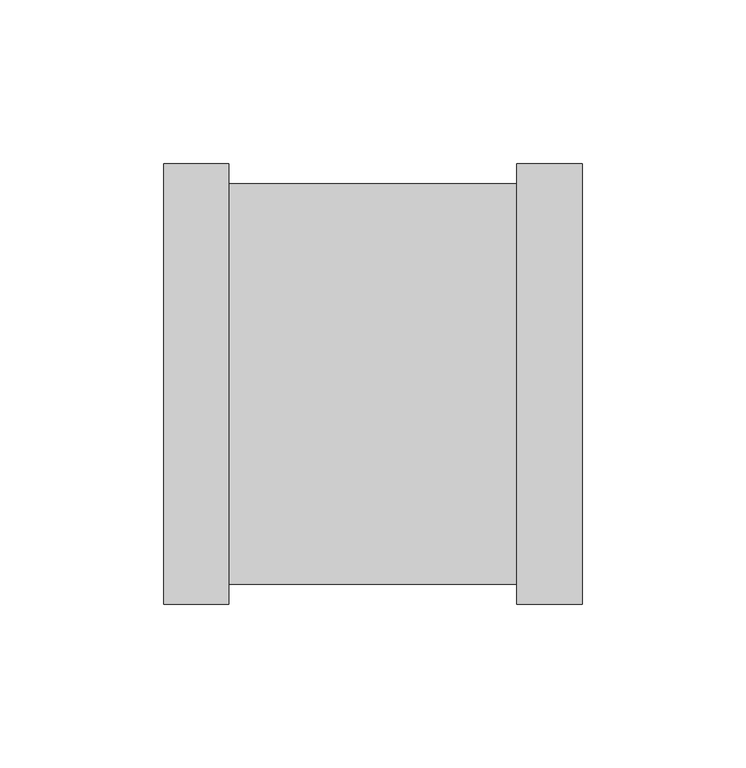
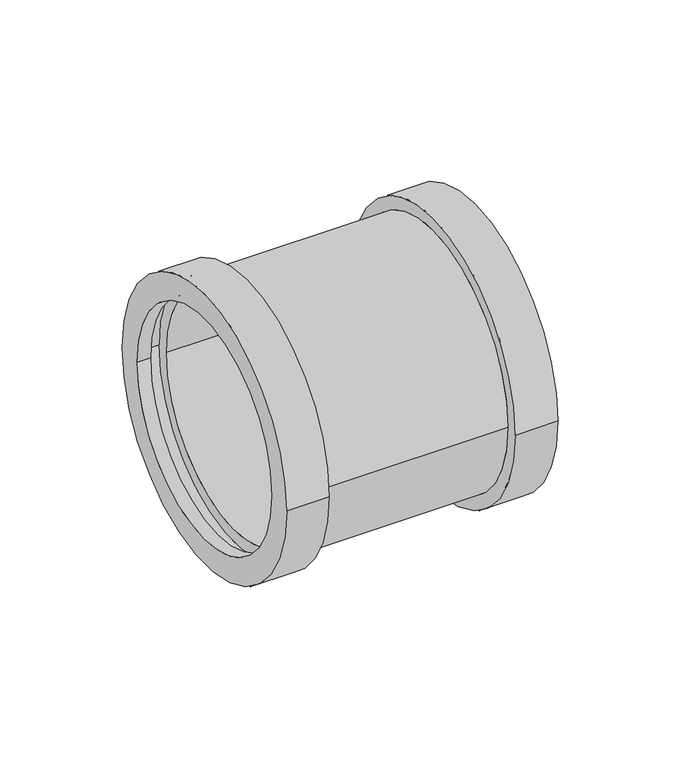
"""IFC4 building model written with IfcOpenShell, lengths in millimetres: pipe fitting geometry, AWADUKT PP Union DSM : Blue No PID."""

from ifc_helpers import new_model, si_unit, frame, origin, place, context, project, spatial, polyline, circle_curve, source, transform, mapped, element, save
from ifc_brep_helpers import plane_surface, cylinder_surface, revolved_surface, advanced_brep


def pipe_fitting_0ebad727(model_context):
    return source(origin(), model_context, "Body", "AdvancedBrep", [
        advanced_brep(
        [(-48.2, -55.0, 0.0), (-48.2, 55.0, 0.0), (0.0, 55.0, 0.0), (0.0, -55.0, 0.0), (-55.8, -61.2, 0.0), (-55.8, 61.2, 0.0), (-48.2, 61.2, 0.0), (-48.2, -61.2, 0.0), (-62.0, -55.0, 0.0), (-62.0, 55.0, 0.0), (-55.8, 55.0, 0.0), (-55.8, -55.0, 0.0), (-42.0, -67.4, 0.0), (-42.0, 67.4, 0.0), (-62.0, 67.4, 0.0), (-62.0, -67.4, 0.0), (46.0, -61.2, 0.0), (46.0, 61.2, 0.0), (-42.0, 61.2, 0.0), (-42.0, -61.2, 0.0), (66.0, -67.4, 0.0), (66.0, 67.4, 0.0), (46.0, 67.4, 0.0), (46.0, -67.4, 0.0), (59.8, -55.0, 0.0), (59.8, 55.0, 0.0), (66.0, 55.0, 0.0), (66.0, -55.0, 0.0), (52.2, -61.2, 0.0), (52.2, 61.2, 0.0), (59.8, 61.2, 0.0), (59.8, -61.2, 0.0), (4.0, -55.0, 0.0), (4.0, 55.0, 0.0), (52.2, 55.0, 0.0), (52.2, -55.0, 0.0), (0.0, -48.8, 0.0), (0.0, 48.8, 0.0), (4.0, 48.8, 0.0), (4.0, -48.8, 0.0)],
        [
            (0, 1, circle_curve(frame((-48.2, 0.0, 0.0), z_axis=(-1.0, 0.0, 0.0), x_axis=(0.0, 1.0, 0.0)), 55.0)),
            (1, 2),
            (2, 3, circle_curve(frame((0.0, 0.0, 0.0), z_axis=(1.0, 0.0, 0.0), x_axis=(0.0, 1.0, 0.0)), 55.0)),
            (3, 0),
            (4, 5, circle_curve(frame((-55.8, 0.0, 0.0), z_axis=(-1.0, 0.0, 0.0), x_axis=(0.0, 1.0, 0.0)), 61.2)),
            (5, 6),
            (6, 7, circle_curve(frame((-48.2, 0.0, 0.0), z_axis=(1.0, 0.0, 0.0), x_axis=(0.0, 1.0, 0.0)), 61.2)),
            (7, 4),
            (8, 9, circle_curve(frame((-62.0, 0.0, 0.0), z_axis=(-1.0, 0.0, 0.0), x_axis=(0.0, 1.0, 0.0)), 55.0)),
            (9, 10),
            (10, 11, circle_curve(frame((-55.8, 0.0, 0.0), z_axis=(1.0, 0.0, 0.0), x_axis=(0.0, 1.0, 0.0)), 55.0)),
            (11, 8),
            (12, 13, circle_curve(frame((-42.0, 0.0, 0.0), z_axis=(-1.0, 0.0, 0.0), x_axis=(0.0, 1.0, 0.0)), 67.4)),
            (13, 14),
            (14, 15, circle_curve(frame((-62.0, 0.0, 0.0), z_axis=(1.0, 0.0, 0.0), x_axis=(0.0, 1.0, 0.0)), 67.4)),
            (15, 12),
            (16, 17, circle_curve(frame((46.0, 0.0, 0.0), z_axis=(-1.0, 0.0, 0.0), x_axis=(0.0, 1.0, 0.0)), 61.2)),
            (17, 18),
            (18, 19, circle_curve(frame((-42.0, 0.0, 0.0), z_axis=(1.0, 0.0, 0.0), x_axis=(0.0, 1.0, 0.0)), 61.2)),
            (19, 16),
            (20, 21, circle_curve(frame((66.0, 0.0, 0.0), z_axis=(-1.0, 0.0, 0.0), x_axis=(0.0, 1.0, 0.0)), 67.4)),
            (21, 22),
            (22, 23, circle_curve(frame((46.0, 0.0, 0.0), z_axis=(1.0, 0.0, 0.0), x_axis=(0.0, 1.0, 0.0)), 67.4)),
            (23, 20),
            (24, 25, circle_curve(frame((59.8, 0.0, 0.0), z_axis=(-1.0, 0.0, 0.0), x_axis=(0.0, 1.0, 0.0)), 55.0)),
            (25, 26),
            (26, 27, circle_curve(frame((66.0, 0.0, 0.0), z_axis=(1.0, 0.0, 0.0), x_axis=(0.0, 1.0, 0.0)), 55.0)),
            (27, 24),
            (28, 29, circle_curve(frame((52.2, 0.0, 0.0), z_axis=(-1.0, 0.0, 0.0), x_axis=(0.0, 1.0, 0.0)), 61.2)),
            (29, 30),
            (30, 31, circle_curve(frame((59.8, 0.0, 0.0), z_axis=(1.0, 0.0, 0.0), x_axis=(0.0, 1.0, 0.0)), 61.2)),
            (31, 28),
            (32, 33, circle_curve(frame((4.0, 0.0, 0.0), z_axis=(-1.0, 0.0, 0.0), x_axis=(0.0, 1.0, 0.0)), 55.0)),
            (33, 34),
            (34, 35, circle_curve(frame((52.2, 0.0, 0.0), z_axis=(1.0, 0.0, 0.0), x_axis=(0.0, 1.0, 0.0)), 55.0)),
            (35, 32),
            (36, 37, circle_curve(frame((0.0, 0.0, 0.0), z_axis=(-1.0, 0.0, 0.0), x_axis=(0.0, 1.0, 0.0)), 48.8)),
            (37, 38),
            (38, 39, circle_curve(frame((4.0, 0.0, 0.0), z_axis=(1.0, 0.0, 0.0), x_axis=(0.0, 1.0, 0.0)), 48.8)),
            (39, 36),
            (1, 0, circle_curve(frame((-48.2, 0.0, 0.0), z_axis=(-1.0, 0.0, 0.0), x_axis=(0.0, -1.0, 0.0)), 55.0)),
            (3, 2, circle_curve(frame((0.0, 0.0, 0.0), z_axis=(1.0, 0.0, 0.0), x_axis=(0.0, -1.0, 0.0)), 55.0)),
            (6, 7, circle_curve(frame((-48.2, 0.0, 0.0), z_axis=(-1.0, 0.0, 0.0), x_axis=(0.0, -1.0, 0.0)), 61.2)),
            (5, 4, circle_curve(frame((-55.8, 0.0, 0.0), z_axis=(-1.0, 0.0, 0.0), x_axis=(0.0, -1.0, 0.0)), 61.2)),
            (10, 11, circle_curve(frame((-55.8, 0.0, 0.0), z_axis=(-1.0, 0.0, 0.0), x_axis=(0.0, -1.0, 0.0)), 55.0)),
            (9, 8, circle_curve(frame((-62.0, 0.0, 0.0), z_axis=(-1.0, 0.0, 0.0), x_axis=(0.0, -1.0, 0.0)), 55.0)),
            (14, 15, circle_curve(frame((-62.0, 0.0, 0.0), z_axis=(-1.0, 0.0, 0.0), x_axis=(0.0, -1.0, 0.0)), 67.4)),
            (13, 12, circle_curve(frame((-42.0, 0.0, 0.0), z_axis=(-1.0, 0.0, 0.0), x_axis=(0.0, -1.0, 0.0)), 67.4)),
            (18, 19, circle_curve(frame((-42.0, 0.0, 0.0), z_axis=(-1.0, 0.0, 0.0), x_axis=(0.0, -1.0, 0.0)), 61.2)),
            (17, 16, circle_curve(frame((46.0, 0.0, 0.0), z_axis=(-1.0, 0.0, 0.0), x_axis=(0.0, -1.0, 0.0)), 61.2)),
            (22, 23, circle_curve(frame((46.0, 0.0, 0.0), z_axis=(-1.0, 0.0, 0.0), x_axis=(0.0, -1.0, 0.0)), 67.4)),
            (21, 20, circle_curve(frame((66.0, 0.0, 0.0), z_axis=(-1.0, 0.0, 0.0), x_axis=(0.0, -1.0, 0.0)), 67.4)),
            (26, 27, circle_curve(frame((66.0, 0.0, 0.0), z_axis=(-1.0, 0.0, 0.0), x_axis=(0.0, -1.0, 0.0)), 55.0)),
            (25, 24, circle_curve(frame((59.8, 0.0, 0.0), z_axis=(-1.0, 0.0, 0.0), x_axis=(0.0, -1.0, 0.0)), 55.0)),
            (30, 31, circle_curve(frame((59.8, 0.0, 0.0), z_axis=(-1.0, 0.0, 0.0), x_axis=(0.0, -1.0, 0.0)), 61.2)),
            (29, 28, circle_curve(frame((52.2, 0.0, 0.0), z_axis=(-1.0, 0.0, 0.0), x_axis=(0.0, -1.0, 0.0)), 61.2)),
            (34, 35, circle_curve(frame((52.2, 0.0, 0.0), z_axis=(-1.0, 0.0, 0.0), x_axis=(0.0, -1.0, 0.0)), 55.0)),
            (33, 32, circle_curve(frame((4.0, 0.0, 0.0), z_axis=(-1.0, 0.0, 0.0), x_axis=(0.0, -1.0, 0.0)), 55.0)),
            (38, 39, circle_curve(frame((4.0, 0.0, 0.0), z_axis=(-1.0, 0.0, 0.0), x_axis=(0.0, -1.0, 0.0)), 48.8)),
            (37, 36, circle_curve(frame((0.0, 0.0, 0.0), z_axis=(-1.0, 0.0, 0.0), x_axis=(0.0, -1.0, 0.0)), 48.8)),
        ],
        [
            revolved_surface(polyline([(0.0, 55.0, 0.0), (-48.2, 55.0, 0.0)]), (2.0, 0.0, 0.0), (1.0, 0.0, 0.0)),
            revolved_surface(polyline([(-48.2, 61.2, 0.0), (-55.8, 61.2, 0.0)]), (2.0, 0.0, 0.0), (1.0, 0.0, 0.0)),
            revolved_surface(polyline([(-55.8, 55.0, 0.0), (-62.0, 55.0, 0.0)]), (2.0, 0.0, 0.0), (1.0, 0.0, 0.0)),
            cylinder_surface(frame((2.0, 0.0, 0.0), z_axis=(1.0, 0.0, 0.0), x_axis=(0.0, 1.0, 0.0)), 67.4),
            cylinder_surface(frame((2.0, 0.0, 0.0), z_axis=(1.0, 0.0, 0.0), x_axis=(0.0, 1.0, 0.0)), 61.2),
            revolved_surface(polyline([(66.0, 55.0, 0.0), (59.8, 55.0, 0.0)]), (2.0, 0.0, 0.0), (1.0, 0.0, 0.0)),
            revolved_surface(polyline([(59.8, 61.2, 0.0), (52.2, 61.2, 0.0)]), (2.0, 0.0, 0.0), (1.0, 0.0, 0.0)),
            revolved_surface(polyline([(52.2, 55.0, 0.0), (4.0, 55.0, 0.0)]), (2.0, 0.0, 0.0), (1.0, 0.0, 0.0)),
            revolved_surface(polyline([(4.0, 48.8, 0.0), (0.0, 48.8, 0.0)]), (2.0, 0.0, 0.0), (1.0, 0.0, 0.0)),
            revolved_surface(polyline([(0.0, -55.0, 0.0), (-48.2, -55.0, 0.0)]), (2.0, 0.0, 0.0), (1.0, 0.0, 0.0)),
            plane_surface(frame((-48.2, 0.0, 0.0), z_axis=(-1.0, 0.0, 0.0), x_axis=(0.0, -1.0, 0.0))),
            revolved_surface(polyline([(-48.2, -61.2, 0.0), (-55.8, -61.2, 0.0)]), (2.0, 0.0, 0.0), (1.0, 0.0, 0.0)),
            plane_surface(frame((-55.8, 0.0, 0.0), z_axis=(1.0, 0.0, 0.0), x_axis=(0.0, -1.0, 0.0))),
            revolved_surface(polyline([(-55.8, -55.0, 0.0), (-62.0, -55.0, 0.0)]), (2.0, 0.0, 0.0), (1.0, 0.0, 0.0)),
            plane_surface(frame((-62.0, 0.0, 0.0), z_axis=(-1.0, 0.0, 0.0), x_axis=(0.0, -1.0, 0.0))),
            cylinder_surface(frame((2.0, 0.0, 0.0), z_axis=(1.0, 0.0, 0.0), x_axis=(0.0, -1.0, 0.0)), 67.4),
            plane_surface(frame((-42.0, 0.0, 0.0), z_axis=(1.0, 0.0, 0.0), x_axis=(0.0, -1.0, 0.0))),
            cylinder_surface(frame((2.0, 0.0, 0.0), z_axis=(1.0, 0.0, 0.0), x_axis=(0.0, -1.0, 0.0)), 61.2),
            plane_surface(frame((46.0, 0.0, 0.0), z_axis=(-1.0, 0.0, 0.0), x_axis=(0.0, -1.0, 0.0))),
            plane_surface(frame((66.0, 0.0, 0.0), z_axis=(1.0, 0.0, 0.0), x_axis=(0.0, -1.0, 0.0))),
            revolved_surface(polyline([(66.0, -55.0, 0.0), (59.8, -55.0, 0.0)]), (2.0, 0.0, 0.0), (1.0, 0.0, 0.0)),
            plane_surface(frame((59.8, 0.0, 0.0), z_axis=(-1.0, 0.0, 0.0), x_axis=(0.0, -1.0, 0.0))),
            revolved_surface(polyline([(59.8, -61.2, 0.0), (52.2, -61.2, 0.0)]), (2.0, 0.0, 0.0), (1.0, 0.0, 0.0)),
            plane_surface(frame((52.2, 0.0, 0.0), z_axis=(1.0, 0.0, 0.0), x_axis=(0.0, -1.0, 0.0))),
            revolved_surface(polyline([(52.2, -55.0, 0.0), (4.0, -55.0, 0.0)]), (2.0, 0.0, 0.0), (1.0, 0.0, 0.0)),
            plane_surface(frame((4.0, 0.0, 0.0), z_axis=(1.0, 0.0, 0.0), x_axis=(0.0, -1.0, 0.0))),
            revolved_surface(polyline([(4.0, -48.8, 0.0), (0.0, -48.8, 0.0)]), (2.0, 0.0, 0.0), (1.0, 0.0, 0.0)),
            plane_surface(frame((0.0, 0.0, 0.0), z_axis=(-1.0, 0.0, 0.0), x_axis=(0.0, -1.0, 0.0))),
        ],
        [
            (0, [[1, 2, 3, 4]]),
            (1, [[5, 6, 7, 8]]),
            (2, [[9, 10, 11, 12]]),
            (3, [[13, 14, 15, 16]]),
            (4, [[17, 18, 19, 20]]),
            (3, [[21, 22, 23, 24]]),
            (5, [[25, 26, 27, 28]]),
            (6, [[29, 30, 31, 32]]),
            (7, [[33, 34, 35, 36]]),
            (8, [[37, 38, 39, 40]]),
            (9, [[41, -4, 42, -2]]),
            (10, [[43, -7], [-41, -1]]),
            (11, [[44, -8, -43, -6]]),
            (12, [[-44, -5], [45, -11]]),
            (13, [[46, -12, -45, -10]]),
            (14, [[47, -15], [-46, -9]]),
            (15, [[48, -16, -47, -14]]),
            (16, [[-48, -13], [49, -19]]),
            (17, [[50, -20, -49, -18]]),
            (18, [[51, -23], [-50, -17]]),
            (15, [[52, -24, -51, -22]]),
            (19, [[-52, -21], [53, -27]]),
            (20, [[54, -28, -53, -26]]),
            (21, [[55, -31], [-54, -25]]),
            (22, [[56, -32, -55, -30]]),
            (23, [[-56, -29], [57, -35]]),
            (24, [[58, -36, -57, -34]]),
            (25, [[-58, -33], [59, -39]]),
            (26, [[60, -40, -59, -38]]),
            (27, [[-42, -3], [-60, -37]]),
        ],
    ),
    ])


if __name__ == "__main__":
    model = new_model("IFC4")
    model_context = context("Model", 3, world=origin())
    ifc_project = project(units=[si_unit("LENGTHUNIT", "METRE", prefix="MILLI")], contexts=[model_context])
    site = spatial("IfcSite", under=ifc_project)
    building = spatial("IfcBuilding", under=site)
    placement = place(None, origin())
    pipe_fitting_shape = pipe_fitting_0ebad727(model_context)
    element("IfcPipeFitting", 1, ObjectType="AWADUKT PP Union DSM : Blue No PID", at=placement, inside=building, context=model_context, shape_type="MappedRepresentation", body=[
        mapped(pipe_fitting_shape, transform((0.0, 0.0, 0.0), x_axis=(1.0, 0.0, 0.0), y_axis=(0.0, 1.0, 0.0), z_axis=(0.0, 0.0, 1.0))),
    ])
    save(model, "model.ifc")
